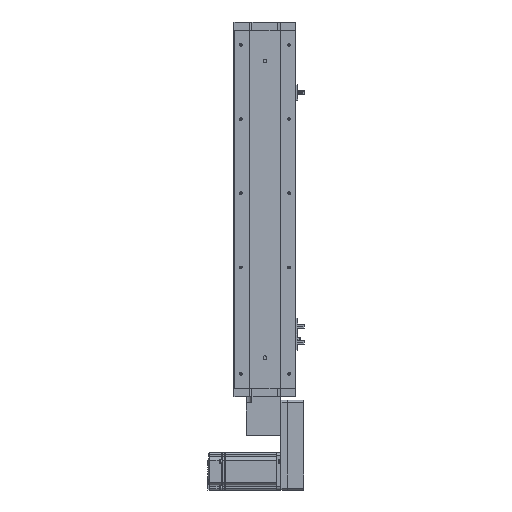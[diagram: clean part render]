
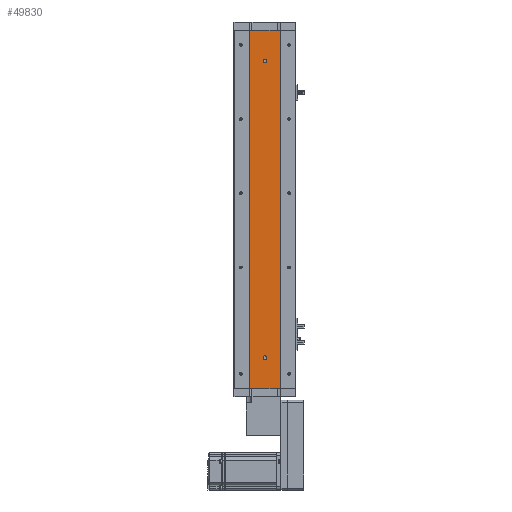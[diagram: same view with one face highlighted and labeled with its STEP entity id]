
A CAD part, left-side view. The second image highlights one B-rep face of the part: STEP entity #49830.
In plain terms, the highlighted planar face has unit normal (-1, 0, 0).
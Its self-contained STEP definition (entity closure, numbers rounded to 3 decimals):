
#1303 = DIRECTION ( 'NONE',  ( -1., 0., 0. ) ) ;
#1599 = VERTEX_POINT ( 'NONE', #44671 ) ;
#2690 = CARTESIAN_POINT ( 'NONE',  ( -18.926, 24.785, 0. ) ) ;
#3592 = CARTESIAN_POINT ( 'NONE',  ( -18.926, 24.785, 580. ) ) ;
#3747 = LINE ( 'NONE', #4634, #54413 ) ;
#4470 = EDGE_CURVE ( 'NONE', #47990, #34463, #56642, .T. ) ;
#4634 = CARTESIAN_POINT ( 'NONE',  ( -18.926, 24.785, 580. ) ) ;
#4733 = VECTOR ( 'NONE', #61782, 1000. ) ;
#4831 = DIRECTION ( 'NONE',  ( -1., 0., 0. ) ) ;
#5388 = VERTEX_POINT ( 'NONE', #22903 ) ;
#5537 = CARTESIAN_POINT ( 'NONE',  ( -18.926, 0., 53. ) ) ;
#6668 = ORIENTED_EDGE ( 'NONE', *, *, #55786, .F. ) ;
#7329 = CARTESIAN_POINT ( 'NONE',  ( -18.926, -24.785, 580. ) ) ;
#8598 = DIRECTION ( 'NONE',  ( 0., 0., -1. ) ) ;
#8683 = CARTESIAN_POINT ( 'NONE',  ( -18.926, 0., 533. ) ) ;
#8701 = DIRECTION ( 'NONE',  ( -1., 0., 0. ) ) ;
#8883 = DIRECTION ( 'NONE',  ( 0., -1., 0. ) ) ;
#9919 = EDGE_CURVE ( 'NONE', #34463, #47990, #15141, .T. ) ;
#10485 = VECTOR ( 'NONE', #24190, 1000. ) ;
#10520 = ORIENTED_EDGE ( 'NONE', *, *, #11415, .T. ) ;
#11415 = EDGE_CURVE ( 'NONE', #52699, #43009, #32420, .T. ) ;
#14240 = CARTESIAN_POINT ( 'NONE',  ( -18.926, 0., 530. ) ) ;
#15141 = CIRCLE ( 'NONE', #40172, 3. ) ;
#18627 = EDGE_CURVE ( 'NONE', #36231, #1599, #30979, .T. ) ;
#19216 = DIRECTION ( 'NONE',  ( 0., 0., 1. ) ) ;
#19272 = CARTESIAN_POINT ( 'NONE',  ( -18.926, -24.785, 580. ) ) ;
#20880 = AXIS2_PLACEMENT_3D ( 'NONE', #30714, #1303, #35641 ) ;
#22141 = EDGE_CURVE ( 'NONE', #5388, #52699, #3747, .T. ) ;
#22601 = CARTESIAN_POINT ( 'NONE',  ( -18.926, 24.785, 0. ) ) ;
#22903 = CARTESIAN_POINT ( 'NONE',  ( -18.926, 24.785, 580. ) ) ;
#23574 = LINE ( 'NONE', #19272, #10485 ) ;
#23818 = ORIENTED_EDGE ( 'NONE', *, *, #18627, .F. ) ;
#24190 = DIRECTION ( 'NONE',  ( 0., 0., -1. ) ) ;
#28164 = ORIENTED_EDGE ( 'NONE', *, *, #9919, .F. ) ;
#29415 = EDGE_CURVE ( 'NONE', #51376, #43009, #23574, .T. ) ;
#30714 = CARTESIAN_POINT ( 'NONE',  ( -18.926, 0., 50. ) ) ;
#30979 = CIRCLE ( 'NONE', #51112, 3. ) ;
#31397 = VECTOR ( 'NONE', #8883, 1000. ) ;
#32420 = LINE ( 'NONE', #22601, #4733 ) ;
#33268 = FACE_BOUND ( 'NONE', #52445, .T. ) ;
#33492 = EDGE_LOOP ( 'NONE', ( #10520, #51061, #53160, #40517 ) ) ;
#34287 = CARTESIAN_POINT ( 'NONE',  ( -18.926, 0., 50. ) ) ;
#34463 = VERTEX_POINT ( 'NONE', #51591 ) ;
#34796 = FACE_OUTER_BOUND ( 'NONE', #33492, .T. ) ;
#35641 = DIRECTION ( 'NONE',  ( 0., 0., 1. ) ) ;
#36231 = VERTEX_POINT ( 'NONE', #8683 ) ;
#37952 = DIRECTION ( 'NONE',  ( 1., 0., 0. ) ) ;
#38059 = CARTESIAN_POINT ( 'NONE',  ( -18.926, 0., 530. ) ) ;
#38236 = CARTESIAN_POINT ( 'NONE',  ( -18.926, 24.785, 580. ) ) ;
#39167 = DIRECTION ( 'NONE',  ( 0., 0., 1. ) ) ;
#40172 = AXIS2_PLACEMENT_3D ( 'NONE', #34287, #4831, #39167 ) ;
#40517 = ORIENTED_EDGE ( 'NONE', *, *, #22141, .T. ) ;
#42965 = DIRECTION ( 'NONE',  ( 0., 0., 1. ) ) ;
#43009 = VERTEX_POINT ( 'NONE', #60434 ) ;
#44537 = AXIS2_PLACEMENT_3D ( 'NONE', #3592, #37952, #8598 ) ;
#44671 = CARTESIAN_POINT ( 'NONE',  ( -18.926, 0., 527. ) ) ;
#47646 = PLANE ( 'NONE',  #44537 ) ;
#47990 = VERTEX_POINT ( 'NONE', #5537 ) ;
#48448 = ORIENTED_EDGE ( 'NONE', *, *, #4470, .F. ) ;
#48577 = DIRECTION ( 'NONE',  ( -1., 0., 0. ) ) ;
#48859 = DIRECTION ( 'NONE',  ( 0., 0., -1. ) ) ;
#48992 = EDGE_CURVE ( 'NONE', #5388, #51376, #57481, .T. ) ;
#49830 = ADVANCED_FACE ( 'NONE', ( #33268, #59307, #34796 ), #47646, .F. ) ;
#51061 = ORIENTED_EDGE ( 'NONE', *, *, #29415, .F. ) ;
#51112 = AXIS2_PLACEMENT_3D ( 'NONE', #14240, #48577, #19216 ) ;
#51376 = VERTEX_POINT ( 'NONE', #7329 ) ;
#51591 = CARTESIAN_POINT ( 'NONE',  ( -18.926, 0., 47. ) ) ;
#52445 = EDGE_LOOP ( 'NONE', ( #48448, #28164 ) ) ;
#52539 = CIRCLE ( 'NONE', #53718, 3. ) ;
#52699 = VERTEX_POINT ( 'NONE', #2690 ) ;
#53160 = ORIENTED_EDGE ( 'NONE', *, *, #48992, .F. ) ;
#53293 = EDGE_LOOP ( 'NONE', ( #23818, #6668 ) ) ;
#53718 = AXIS2_PLACEMENT_3D ( 'NONE', #38059, #8701, #42965 ) ;
#54413 = VECTOR ( 'NONE', #48859, 1000. ) ;
#55786 = EDGE_CURVE ( 'NONE', #1599, #36231, #52539, .T. ) ;
#56642 = CIRCLE ( 'NONE', #20880, 3. ) ;
#57481 = LINE ( 'NONE', #38236, #31397 ) ;
#59307 = FACE_BOUND ( 'NONE', #53293, .T. ) ;
#60434 = CARTESIAN_POINT ( 'NONE',  ( -18.926, -24.785, 0. ) ) ;
#61782 = DIRECTION ( 'NONE',  ( 0., -1., 0. ) ) ;
